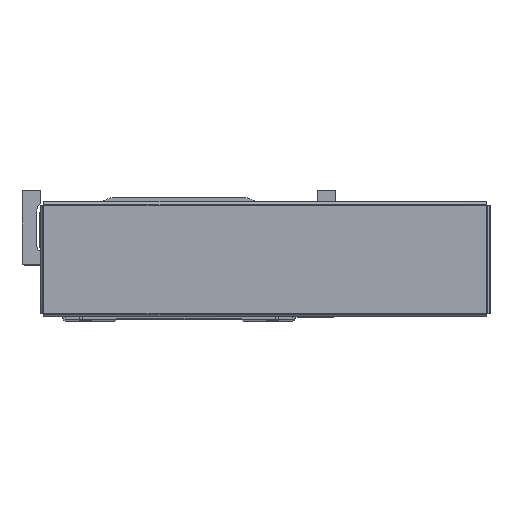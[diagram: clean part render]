
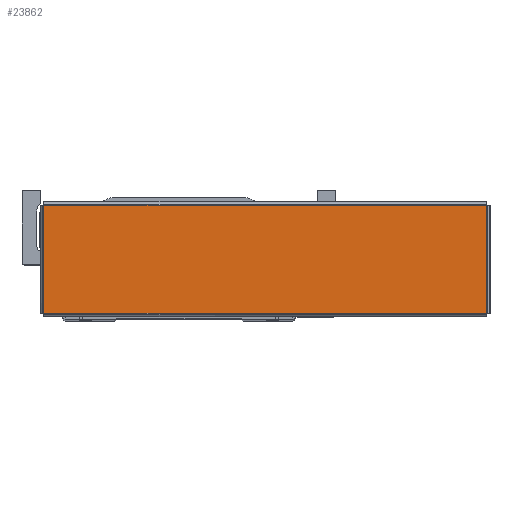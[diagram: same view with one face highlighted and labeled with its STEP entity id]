
A CAD part, top view. The second image highlights one B-rep face of the part: STEP entity #23862.
In plain terms, the highlighted planar face has unit normal (0, 0, 1) as drawn and (0, -1, 0) by its records, which use the part's own axes.
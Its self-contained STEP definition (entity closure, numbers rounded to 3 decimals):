
#2559 = EDGE_CURVE ( 'NONE', #22727, #22825, #44505, .T. ) ;
#2588 = EDGE_CURVE ( 'NONE', #22772, #22765, #44634, .T. ) ;
#2595 = EDGE_CURVE ( 'NONE', #22765, #22727, #44647, .T. ) ;
#2604 = EDGE_CURVE ( 'NONE', #22825, #22772, #44567, .T. ) ;
#12229 = AXIS2_PLACEMENT_3D ( 'NONE', #30913, #30934, #30946 ) ;
#16627 = ORIENTED_EDGE ( 'NONE', *, *, #2559, .T. ) ;
#16654 = ORIENTED_EDGE ( 'NONE', *, *, #2588, .T. ) ;
#16666 = ORIENTED_EDGE ( 'NONE', *, *, #2604, .T. ) ;
#16667 = ORIENTED_EDGE ( 'NONE', *, *, #2595, .T. ) ;
#22727 = VERTEX_POINT ( 'NONE', #34641 ) ;
#22765 = VERTEX_POINT ( 'NONE', #34690 ) ;
#22772 = VERTEX_POINT ( 'NONE', #34684 ) ;
#22825 = VERTEX_POINT ( 'NONE', #34777 ) ;
#23862 = ADVANCED_FACE ( 'NONE', ( #29036 ), #30928, .F. ) ;
#24783 = EDGE_LOOP ( 'NONE', ( #16654, #16667, #16627, #16666 ) ) ;
#26957 = DIRECTION ( 'NONE',  ( 1., 0., 0. ) ) ;
#26978 = CARTESIAN_POINT ( 'NONE',  ( -128.393, -1.2, -31.363 ) ) ;
#27040 = CARTESIAN_POINT ( 'NONE',  ( 128.393, -1.2, 31.363 ) ) ;
#27044 = DIRECTION ( 'NONE',  ( -1., 0., 0. ) ) ;
#27094 = DIRECTION ( 'NONE',  ( 0., 0., 1. ) ) ;
#27104 = CARTESIAN_POINT ( 'NONE',  ( -128.363, -1.2, 31.393 ) ) ;
#27108 = DIRECTION ( 'NONE',  ( 0., 0., -1. ) ) ;
#27131 = CARTESIAN_POINT ( 'NONE',  ( 128.363, -1.2, -31.393 ) ) ;
#29036 = FACE_OUTER_BOUND ( 'NONE', #24783, .T. ) ;
#30913 = CARTESIAN_POINT ( 'NONE',  ( 0., -1.2, 0. ) ) ;
#30928 = PLANE ( 'NONE',  #12229 ) ;
#30934 = DIRECTION ( 'NONE',  ( 0., 1., 0. ) ) ;
#30946 = DIRECTION ( 'NONE',  ( 0., 0., 1. ) ) ;
#34641 = CARTESIAN_POINT ( 'NONE',  ( -128.363, -1.2, -31.363 ) ) ;
#34684 = CARTESIAN_POINT ( 'NONE',  ( 128.363, -1.2, 31.363 ) ) ;
#34690 = CARTESIAN_POINT ( 'NONE',  ( -128.363, -1.2, 31.363 ) ) ;
#34777 = CARTESIAN_POINT ( 'NONE',  ( 128.363, -1.2, -31.363 ) ) ;
#44505 = LINE ( 'NONE', #26978, #44523 ) ;
#44523 = VECTOR ( 'NONE', #26957, 1000. ) ;
#44567 = LINE ( 'NONE', #27131, #44580 ) ;
#44569 = VECTOR ( 'NONE', #27044, 1000. ) ;
#44580 = VECTOR ( 'NONE', #27094, 1000. ) ;
#44634 = LINE ( 'NONE', #27040, #44569 ) ;
#44647 = LINE ( 'NONE', #27104, #44664 ) ;
#44664 = VECTOR ( 'NONE', #27108, 1000. ) ;
